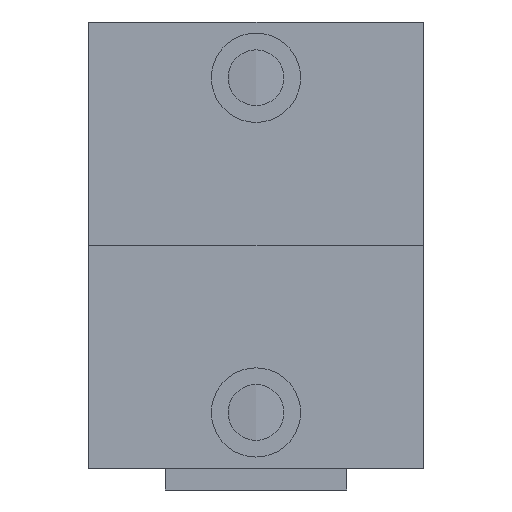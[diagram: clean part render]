
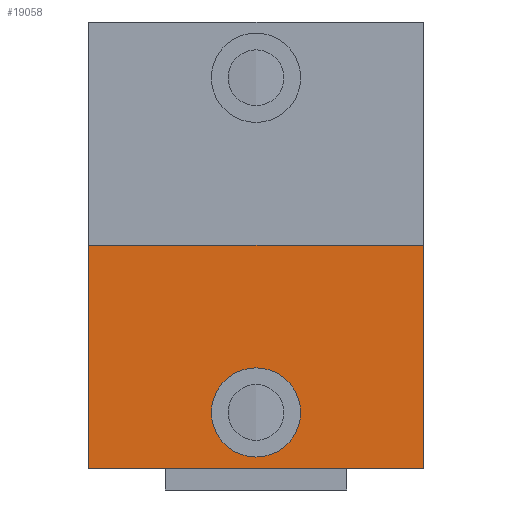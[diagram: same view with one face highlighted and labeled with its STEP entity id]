
A CAD part, left-side view. The second image highlights one B-rep face of the part: STEP entity #19058.
In plain terms, the highlighted planar face has unit normal (-1, 0, 0).
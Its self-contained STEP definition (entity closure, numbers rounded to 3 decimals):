
#19058=ADVANCED_FACE('',(#32048,#32049),#22143,.F.);
#22143=PLANE('',#71288);
#23496=LINE('',#90831,#27553);
#23760=LINE('',#91798,#27817);
#23767=LINE('',#91811,#27824);
#23769=LINE('',#91815,#27826);
#27553=VECTOR('',#76219,1.);
#27817=VECTOR('',#76965,1.);
#27824=VECTOR('',#76974,1.);
#27826=VECTOR('',#76980,1.);
#32048=FACE_BOUND('',#33002,.T.);
#32049=FACE_BOUND('',#33003,.T.);
#33002=EDGE_LOOP('',(#37223));
#33003=EDGE_LOOP('',(#37224,#37225,#37226,#37227));
#37223=ORIENTED_EDGE('',*,*,#60365,.F.);
#37224=ORIENTED_EDGE('',*,*,#60525,.F.);
#37225=ORIENTED_EDGE('',*,*,#60518,.F.);
#37226=ORIENTED_EDGE('',*,*,#60527,.T.);
#37227=ORIENTED_EDGE('',*,*,#60137,.T.);
#54083=VERTEX_POINT('',#90826);
#54085=VERTEX_POINT('',#90830);
#54256=VERTEX_POINT('',#91477);
#54352=VERTEX_POINT('',#91799);
#54353=VERTEX_POINT('',#91800);
#60137=EDGE_CURVE('',#54083,#54085,#23496,.T.);
#60365=EDGE_CURVE('',#54256,#54256,#68901,.T.);
#60518=EDGE_CURVE('',#54352,#54353,#23760,.T.);
#60525=EDGE_CURVE('',#54353,#54085,#23767,.T.);
#60527=EDGE_CURVE('',#54352,#54083,#23769,.T.);
#68901=CIRCLE('',#71199,4.);
#71199=AXIS2_PLACEMENT_3D('',#91476,#76670,#76671);
#71288=AXIS2_PLACEMENT_3D('',#91817,#76983,#76984);
#76219=DIRECTION('',(0.,-1.,0.));
#76670=DIRECTION('',(-1.,0.,0.));
#76671=DIRECTION('',(0.,0.,1.));
#76965=DIRECTION('',(0.,-1.,0.));
#76974=DIRECTION('',(0.,0.,-1.));
#76980=DIRECTION('',(0.,0.,-1.));
#76983=DIRECTION('',(1.,0.,0.));
#76984=DIRECTION('',(0.,0.,1.));
#90826=CARTESIAN_POINT('',(-52.52,20.091,61.039));
#90830=CARTESIAN_POINT('',(-52.52,-9.909,61.039));
#90831=CARTESIAN_POINT('',(-52.52,20.091,61.039));
#91476=CARTESIAN_POINT('',(-52.52,5.091,66.039));
#91477=CARTESIAN_POINT('',(-52.52,5.091,70.039));
#91798=CARTESIAN_POINT('',(-52.52,20.091,81.039));
#91799=CARTESIAN_POINT('',(-52.52,20.091,81.039));
#91800=CARTESIAN_POINT('',(-52.52,-9.909,81.039));
#91811=CARTESIAN_POINT('',(-52.52,-9.909,81.039));
#91815=CARTESIAN_POINT('',(-52.52,20.091,81.039));
#91817=CARTESIAN_POINT('',(-52.52,20.091,79.039));
